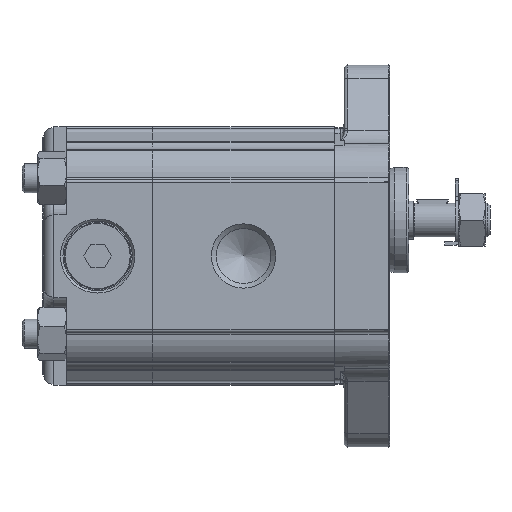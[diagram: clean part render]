
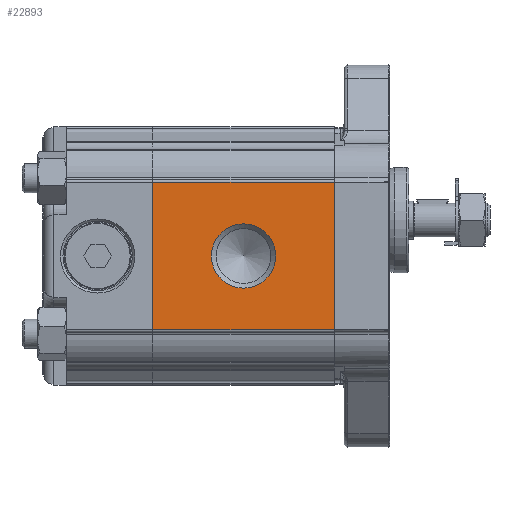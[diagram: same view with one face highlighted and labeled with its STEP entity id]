
A CAD part, left-side view. The second image highlights one B-rep face of the part: STEP entity #22893.
In plain terms, the highlighted planar face has unit normal (-1, 0, 0).
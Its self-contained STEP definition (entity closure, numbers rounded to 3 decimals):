
#1545=LINE('',#34010,#2674);
#1546=LINE('',#34014,#2675);
#1547=LINE('',#34016,#2676);
#1548=LINE('',#34018,#2677);
#2674=VECTOR('',#28045,1000.);
#2675=VECTOR('',#28050,1000.);
#2676=VECTOR('',#28051,1000.);
#2677=VECTOR('',#28052,1000.);
#5837=ORIENTED_EDGE('',*,*,#9193,.T.);
#5838=ORIENTED_EDGE('',*,*,#9194,.F.);
#5839=ORIENTED_EDGE('',*,*,#9192,.F.);
#5840=ORIENTED_EDGE('',*,*,#9195,.T.);
#5841=ORIENTED_EDGE('',*,*,#9196,.T.);
#9192=EDGE_CURVE('',#11058,#11057,#1545,.T.);
#9193=EDGE_CURVE('',#11059,#11059,#12272,.F.);
#9194=EDGE_CURVE('',#11057,#11060,#1546,.T.);
#9195=EDGE_CURVE('',#11058,#11061,#1547,.T.);
#9196=EDGE_CURVE('',#11061,#11060,#1548,.T.);
#11057=VERTEX_POINT('',#34007);
#11058=VERTEX_POINT('',#34009);
#11059=VERTEX_POINT('',#34013);
#11060=VERTEX_POINT('',#34015);
#11061=VERTEX_POINT('',#34017);
#12272=CIRCLE('',#24437,6.723);
#13284=EDGE_LOOP('',(#5837));
#13285=EDGE_LOOP('',(#5838,#5839,#5840,#5841));
#14494=FACE_BOUND('',#13284,.T.);
#14495=FACE_BOUND('',#13285,.T.);
#15284=PLANE('',#24436);
#22893=ADVANCED_FACE('',(#14494,#14495),#15284,.T.);
#24436=AXIS2_PLACEMENT_3D('',#34011,#28046,#28047);
#24437=AXIS2_PLACEMENT_3D('',#34012,#28048,#28049);
#28045=DIRECTION('',(0.,-1.,0.));
#28046=DIRECTION('',(-1.,0.,0.));
#28047=DIRECTION('',(0.,0.,1.));
#28048=DIRECTION('',(-1.,0.,0.));
#28049=DIRECTION('',(0.,0.,1.));
#28050=DIRECTION('',(0.,0.,-1.));
#28051=DIRECTION('',(0.,0.,-1.));
#28052=DIRECTION('',(0.,-1.,0.));
#34007=CARTESIAN_POINT('',(-25.,0.,15.418));
#34009=CARTESIAN_POINT('',(-25.,38.,15.418));
#34010=CARTESIAN_POINT('',(-25.,38.,15.418));
#34011=CARTESIAN_POINT('',(-25.,38.,15.418));
#34012=CARTESIAN_POINT('',(-25.,19.,0.));
#34013=CARTESIAN_POINT('',(-25.,19.,6.723));
#34014=CARTESIAN_POINT('',(-25.,0.,15.418));
#34015=CARTESIAN_POINT('',(-25.,0.,-15.418));
#34016=CARTESIAN_POINT('',(-25.,38.,15.418));
#34017=CARTESIAN_POINT('',(-25.,38.,-15.418));
#34018=CARTESIAN_POINT('',(-25.,38.,-15.418));
